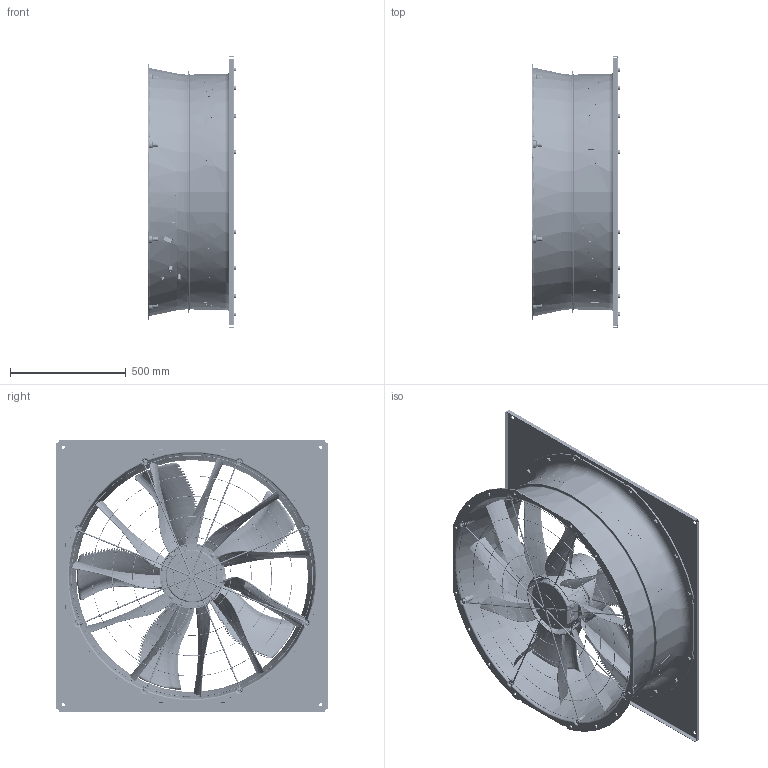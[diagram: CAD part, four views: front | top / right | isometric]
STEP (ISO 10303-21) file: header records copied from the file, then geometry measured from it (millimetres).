
FILE_DESCRIPTION((''),'2;1');
FILE_NAME('19100-QG07-05-03','2019-10-02T',('sassi'),(''),'CREO PARAMETRIC BY PTC INC, 2018070','CREO PARAMETRIC BY PTC INC, 2018070','');
FILE_SCHEMA(('AUTOMOTIVE_DESIGN { 1 0 10303 214 1 1 1 1 }'));
Length unit declared in the file: millimetre
Products named in the file (1): 19100-QG07-05-03
Bounding box: 382 x 1170 x 1170 mm (x, y, z)
Volume: 25632723 mm3; surface area: 6463045.4 mm2
Topology: 1 solids, 1 shells, 7424 faces, 19516 edges, 12218 vertices
Faces by surface type: plane 2746, bspline 2073, cylinder 945, cone 579, torus 533, extrusion 401, sphere 147
Entity records: 446162 total; most frequent: CARTESIAN_POINT 261525, ORIENTED_EDGE 38862, DIRECTION 27147, EDGE_CURVE 19431, VERTEX_POINT 12218, AXIS2_PLACEMENT_3D 9420, VECTOR 8307, LINE 7906
